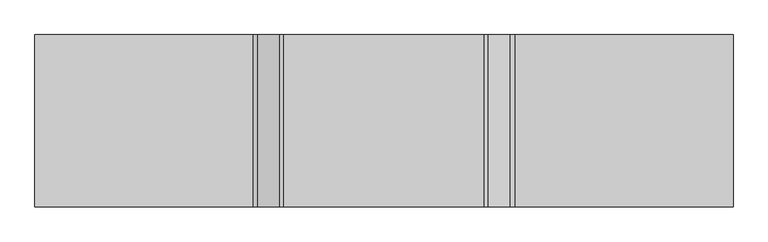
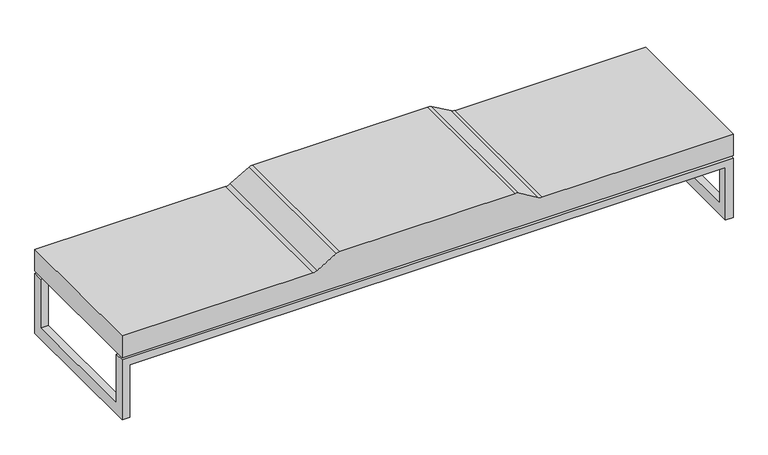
"""IFC4 building model written with IfcOpenShell, lengths in millimetres: furniture geometry, Vestre - Porto - 404 : Vestre - Porto - 404."""

from ifc_helpers import new_model, si_unit, point, frame, frame_2d, origin, place, context, project, spatial, polyline, circle_curve, trimmed, segment, composite_curve, outline, extrude, faceted_brep, source, transform, mapped, element, save


def furniture_80301f20(model_context):
    return source(origin(), model_context, "Body", "SolidModel", [
        extrude(outline(composite_curve([segment(polyline([(348.0, -451.832795), (348.0, -1200.0), (258.0, -1200.0), (258.0, 1200.0), (348.0, 1200.0), (348.0, 450.8124872)]), True, "CONTINUOUS"), segment(trimmed(circle_curve(frame_2d((380.7642392, 450.8124872)), 32.7642392), [point((348.0, 450.8124872))], [point((352.3895757, 434.4303676))], True, "CARTESIAN"), True, "CONTINUOUS"), segment(polyline([(352.3895757, 434.4303676), (395.9374556, 359.0032271)]), True, "CONTINUOUS"), segment(trimmed(circle_curve(frame_2d((369.6767554, 343.8416048)), 30.3232446), [point((395.9374556, 359.0032271))], [point((400.0, 343.8416048))], False, "CARTESIAN"), True, "CONTINUOUS"), segment(polyline([(400.0, 343.8416048), (400.0, -345.2679492)]), True, "CONTINUOUS"), segment(trimmed(circle_curve(frame_2d((375.0, -345.2679492)), 25.0), [point((400.0, -345.2679492))], [point((396.6506351, -357.7679492))], False, "CARTESIAN"), True, "CONTINUOUS"), segment(polyline([(396.6506351, -357.7679492), (352.899737, -433.5467275)]), True, "CONTINUOUS"), segment(trimmed(circle_curve(frame_2d((384.572135, -451.832795)), 36.572135), [point((352.899737, -433.5467275))], [point((348.0, -451.832795))], True, "CARTESIAN"), True, "CONTINUOUS")], self_intersect=False)), frame((0.0, -296.5, 0.0), z_axis=(0.0, 1.0, 0.0), x_axis=(0.0, 0.0, 1.0)), (0.0, 0.0, 1.0), 593.0),
        faceted_brep([(-1200.0, -296.5, 0.0), (-1170.0, -296.5, 0.0), (-1170.0, -296.5, 218.0), (1170.0, -296.5, 218.0), (1170.0, -296.5, 0.0), (1200.0, -296.5, 0.0), (1200.0, -296.5, 248.0), (-1200.0, -296.5, 248.0), (-1170.0, 296.5, 0.0), (-1200.0, 296.5, 0.0), (-1200.0, 296.5, 248.0), (1200.0, 296.5, 248.0), (1200.0, 296.5, 0.0), (1170.0, 296.5, 0.0), (1170.0, 296.5, 218.0), (-1170.0, 296.5, 218.0), (-1200.0, 256.5, 248.0), (-1200.0, -256.5, 248.0), (-1200.0, -256.5, 46.0), (-1200.0, 256.5, 46.0), (-1170.0, 256.5, 218.0), (-1170.0, 256.5, 46.0), (-1170.0, -256.5, 46.0), (-1170.0, -256.5, 218.0), (1170.0, 256.5, 218.0), (1170.0, -256.5, 218.0), (1170.0, -256.5, 46.0), (1170.0, 256.5, 46.0), (1200.0, 256.5, 248.0), (1200.0, 256.5, 46.0), (1200.0, -256.5, 46.0), (1200.0, -256.5, 248.0), (-1000.0, 256.5, 218.0), (-1000.0, 256.5, 248.0), (1000.0, 256.5, 248.0), (1000.0, 256.5, 218.0), (-960.0, 256.5, 218.0), (-20.0, 256.5, 218.0), (-20.0, 256.5, 248.0), (-960.0, 256.5, 248.0), (20.0, 256.5, 218.0), (960.0, 256.5, 218.0), (960.0, 256.5, 248.0), (20.0, 256.5, 248.0), (1000.0, -256.5, 218.0), (-1000.0, -256.5, 218.0), (-960.0, -256.5, 218.0), (-20.0, -256.5, 218.0), (20.0, -256.5, 218.0), (960.0, -256.5, 218.0), (-1000.0, -256.5, 248.0), (1000.0, -256.5, 248.0), (-960.0, -256.5, 248.0), (-20.0, -256.5, 248.0), (20.0, -256.5, 248.0), (960.0, -256.5, 248.0), (-960.0, 256.5, 250.0), (-1000.0, 256.5, 250.0), (-1000.0, -256.5, 250.0), (-960.0, -256.5, 250.0), (20.0, 256.5, 250.0), (-20.0, 256.5, 250.0), (-20.0, -256.5, 250.0), (20.0, -256.5, 250.0), (1000.0, 256.5, 250.0), (960.0, 256.5, 250.0), (960.0, -256.5, 250.0), (1000.0, -256.5, 250.0)], [[[0, 1, 2, 3, 4, 5, 6, 7]], [[8, 9, 10, 11, 12, 13, 14, 15]], [[16, 10, 9, 0, 7, 17, 18, 19]], [[1, 0, 9, 8]], [[15, 20, 21, 22, 23, 2, 1, 8]], [[21, 19, 18, 22]], [[24, 14, 13, 4, 3, 25, 26, 27]], [[5, 4, 13, 12]], [[11, 28, 29, 30, 31, 6, 5, 12]], [[29, 27, 26, 30]], [[16, 19, 21, 20, 32, 33]], [[24, 27, 29, 28, 34, 35]], [[36, 37, 38, 39]], [[40, 41, 42, 43]], [[15, 14, 24, 35, 44, 25, 3, 2, 23, 45, 32, 20], [36, 46, 47, 37], [40, 48, 49, 41]], [[11, 10, 16, 33, 39, 38, 43, 42, 34, 28]], [[18, 17, 50, 45, 23, 22]], [[26, 25, 44, 51, 31, 30]], [[52, 53, 47, 46]], [[54, 55, 49, 48]], [[7, 6, 31, 51, 55, 54, 53, 52, 50, 17]], [[56, 57, 58, 59]], [[60, 61, 62, 63]], [[64, 65, 66, 67]], [[57, 56, 39, 33]], [[58, 57, 33, 32, 45, 50]], [[59, 58, 50, 52]], [[56, 59, 52, 46, 36, 39]], [[61, 60, 43, 38]], [[62, 61, 38, 37, 47, 53]], [[63, 62, 53, 54]], [[60, 63, 54, 48, 40, 43]], [[65, 64, 34, 42]], [[66, 65, 42, 41, 49, 55]], [[67, 66, 55, 51]], [[64, 67, 51, 44, 35, 34]]]),
    ])


if __name__ == "__main__":
    model = new_model("IFC4")
    model_context = context("Model", 3, world=origin())
    ifc_project = project(units=[si_unit("LENGTHUNIT", "METRE", prefix="MILLI")], contexts=[model_context])
    site = spatial("IfcSite", under=ifc_project)
    building = spatial("IfcBuilding", under=site)
    placement = place(None, origin())
    furniture_shape = furniture_80301f20(model_context)
    element("IfcFurniture", 1, ObjectType="Vestre - Porto - 404 : Vestre - Porto - 404", at=placement, inside=building, context=model_context, shape_type="MappedRepresentation", body=[
        mapped(furniture_shape, transform((0.0, 0.0, 0.0), x_axis=(1.0, 0.0, 0.0), y_axis=(0.0, 1.0, 0.0), z_axis=(0.0, 0.0, 1.0))),
    ])
    save(model, "model.ifc")
